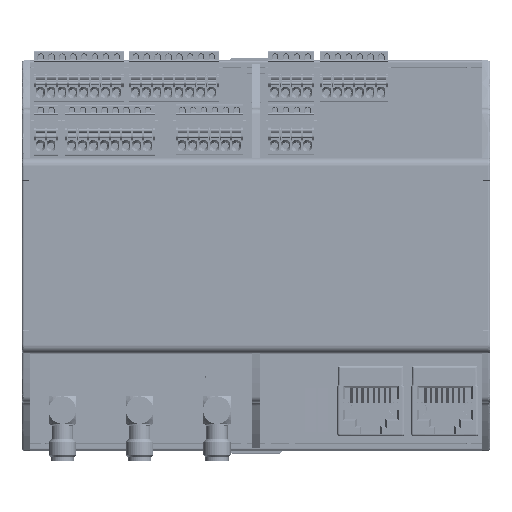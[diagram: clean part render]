
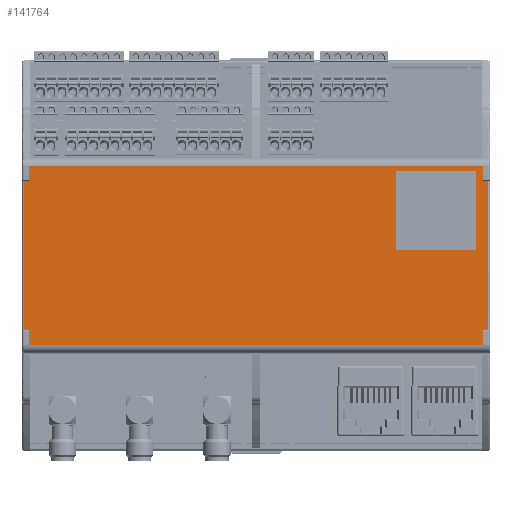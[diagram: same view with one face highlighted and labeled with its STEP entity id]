
A CAD part, top view. The second image highlights one B-rep face of the part: STEP entity #141764.
In plain terms, the highlighted planar face has unit normal (0, 0, 1) as drawn and (0, 1, 0) by its records, which use the part's own axes.
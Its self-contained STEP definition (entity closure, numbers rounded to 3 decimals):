
#18638 = AXIS2_PLACEMENT_3D ( 'NONE', #20826, #20828, #20830 ) ;
#20776 = FACE_BOUND ( 'NONE', #196151, .T. ) ;
#20807 = FACE_OUTER_BOUND ( 'NONE', #196180, .T. ) ;
#20809 = PLANE ( 'NONE',  #18638 ) ;
#20826 = CARTESIAN_POINT ( 'NONE',  ( -16.96, 54.7, 18.2 ) ) ;
#20828 = DIRECTION ( 'NONE',  ( 0., -1., 0. ) ) ;
#20830 = DIRECTION ( 'NONE',  ( 0., 0., -1. ) ) ;
#67210 = CARTESIAN_POINT ( 'NONE',  ( 20.5, 54.7, 106.2 ) ) ;
#67221 = CARTESIAN_POINT ( 'NONE',  ( -17.2, 54.7, 1.8 ) ) ;
#67320 = CARTESIAN_POINT ( 'NONE',  ( -20.5, 54.7, 106.2 ) ) ;
#67371 = CARTESIAN_POINT ( 'NONE',  ( 17.2, 54.7, 107.3 ) ) ;
#67406 = CARTESIAN_POINT ( 'NONE',  ( 20.5, 54.7, 1.8 ) ) ;
#67449 = CARTESIAN_POINT ( 'NONE',  ( -17.2, 54.7, 106.2 ) ) ;
#67514 = CARTESIAN_POINT ( 'NONE',  ( -17.2, 54.7, 107.3 ) ) ;
#67544 = CARTESIAN_POINT ( 'NONE',  ( -17.2, 54.7, 0.7 ) ) ;
#69953 = CARTESIAN_POINT ( 'NONE',  ( 1.144, 54.7, 86.293 ) ) ;
#69973 = CARTESIAN_POINT ( 'NONE',  ( 17.2, 54.7, 0.7 ) ) ;
#69991 = CARTESIAN_POINT ( 'NONE',  ( 17.2, 54.7, 106.2 ) ) ;
#70010 = CARTESIAN_POINT ( 'NONE',  ( 19.432, 54.7, 104.581 ) ) ;
#102897 = VERTEX_POINT ( 'NONE', #174456 ) ;
#103744 = VERTEX_POINT ( 'NONE', #174497 ) ;
#129748 = VERTEX_POINT ( 'NONE', #67210 ) ;
#129761 = VERTEX_POINT ( 'NONE', #67221 ) ;
#129858 = VERTEX_POINT ( 'NONE', #67320 ) ;
#129911 = VERTEX_POINT ( 'NONE', #67371 ) ;
#129942 = VERTEX_POINT ( 'NONE', #67406 ) ;
#129973 = VERTEX_POINT ( 'NONE', #67449 ) ;
#130013 = VERTEX_POINT ( 'NONE', #67514 ) ;
#130031 = VERTEX_POINT ( 'NONE', #67544 ) ;
#130097 = VERTEX_POINT ( 'NONE', #69953 ) ;
#130107 = VERTEX_POINT ( 'NONE', #69973 ) ;
#130115 = VERTEX_POINT ( 'NONE', #69991 ) ;
#130124 = VERTEX_POINT ( 'NONE', #70010 ) ;
#141764 = ADVANCED_FACE ( 'NONE', ( #20776, #20807 ), #20809, .F. ) ;
#155324 = VECTOR ( 'NONE', #159325, 1000. ) ;
#155450 = VECTOR ( 'NONE', #159314, 1000. ) ;
#155453 = VECTOR ( 'NONE', #159374, 1000. ) ;
#155455 = VECTOR ( 'NONE', #159340, 1000. ) ;
#155459 = VECTOR ( 'NONE', #159349, 1000. ) ;
#155461 = VECTOR ( 'NONE', #159364, 1000. ) ;
#155463 = VECTOR ( 'NONE', #159393, 1000. ) ;
#155465 = VECTOR ( 'NONE', #159406, 1000. ) ;
#155469 = VECTOR ( 'NONE', #159417, 1000. ) ;
#155472 = VECTOR ( 'NONE', #159472, 1000. ) ;
#155476 = VECTOR ( 'NONE', #159428, 1000. ) ;
#155479 = VECTOR ( 'NONE', #159440, 1000. ) ;
#155481 = VECTOR ( 'NONE', #159456, 1000. ) ;
#155484 = VECTOR ( 'NONE', #159485, 1000. ) ;
#155491 = VECTOR ( 'NONE', #159499, 1000. ) ;
#155495 = VECTOR ( 'NONE', #159509, 1000. ) ;
#158218 = LINE ( 'NONE', #159318, #155324 ) ;
#158714 = LINE ( 'NONE', #159367, #155453 ) ;
#159300 = LINE ( 'NONE', #159309, #155450 ) ;
#159305 = LINE ( 'NONE', #159379, #155463 ) ;
#159309 = CARTESIAN_POINT ( 'NONE',  ( 19.432, 54.7, 86.293 ) ) ;
#159314 = DIRECTION ( 'NONE',  ( 0., 0., 1. ) ) ;
#159318 = CARTESIAN_POINT ( 'NONE',  ( 1.144, 54.7, 104.581 ) ) ;
#159325 = DIRECTION ( 'NONE',  ( 1., 0., 0. ) ) ;
#159329 = LINE ( 'NONE', #159337, #155455 ) ;
#159337 = CARTESIAN_POINT ( 'NONE',  ( 1.144, 54.7, 104.581 ) ) ;
#159340 = DIRECTION ( 'NONE',  ( 0., 0., -1. ) ) ;
#159343 = LINE ( 'NONE', #159348, #155459 ) ;
#159348 = CARTESIAN_POINT ( 'NONE',  ( 1.144, 54.7, 86.293 ) ) ;
#159349 = DIRECTION ( 'NONE',  ( 1., 0., 0. ) ) ;
#159353 = LINE ( 'NONE', #159360, #155461 ) ;
#159357 = LINE ( 'NONE', #159396, #155465 ) ;
#159360 = CARTESIAN_POINT ( 'NONE',  ( -16.96, 54.7, 1.8 ) ) ;
#159364 = DIRECTION ( 'NONE',  ( 1., 0., 0. ) ) ;
#159367 = CARTESIAN_POINT ( 'NONE',  ( 17.2, 54.7, 0.2 ) ) ;
#159370 = LINE ( 'NONE', #159409, #155469 ) ;
#159374 = DIRECTION ( 'NONE',  ( 0., 0., -1. ) ) ;
#159379 = CARTESIAN_POINT ( 'NONE',  ( -16.96, 54.7, 0.7 ) ) ;
#159388 = LINE ( 'NONE', #159461, #155472 ) ;
#159393 = DIRECTION ( 'NONE',  ( 1., 0., 0. ) ) ;
#159396 = CARTESIAN_POINT ( 'NONE',  ( -17.2, 54.7, 0.2 ) ) ;
#159402 = LINE ( 'NONE', #159476, #155484 ) ;
#159406 = DIRECTION ( 'NONE',  ( 0., 0., -1. ) ) ;
#159409 = CARTESIAN_POINT ( 'NONE',  ( -16.96, 54.7, 1.8 ) ) ;
#159417 = DIRECTION ( 'NONE',  ( 1., 0., 0. ) ) ;
#159421 = LINE ( 'NONE', #159425, #155476 ) ;
#159425 = CARTESIAN_POINT ( 'NONE',  ( -20.5, 54.7, 18.2 ) ) ;
#159428 = DIRECTION ( 'NONE',  ( 0., 0., -1. ) ) ;
#159431 = LINE ( 'NONE', #159436, #155479 ) ;
#159436 = CARTESIAN_POINT ( 'NONE',  ( -16.96, 54.7, 106.2 ) ) ;
#159440 = DIRECTION ( 'NONE',  ( -1., 0., 0. ) ) ;
#159445 = LINE ( 'NONE', #159452, #155481 ) ;
#159452 = CARTESIAN_POINT ( 'NONE',  ( -17.2, 54.7, 72.2 ) ) ;
#159456 = DIRECTION ( 'NONE',  ( 0., 0., -1. ) ) ;
#159461 = CARTESIAN_POINT ( 'NONE',  ( -16.96, 54.7, 107.3 ) ) ;
#159472 = DIRECTION ( 'NONE',  ( -1., 0., 0. ) ) ;
#159476 = CARTESIAN_POINT ( 'NONE',  ( 17.2, 54.7, 107.8 ) ) ;
#159485 = DIRECTION ( 'NONE',  ( 0., 0., -1. ) ) ;
#159488 = LINE ( 'NONE', #159495, #155491 ) ;
#159495 = CARTESIAN_POINT ( 'NONE',  ( -16.96, 54.7, 106.2 ) ) ;
#159499 = DIRECTION ( 'NONE',  ( -1., 0., 0. ) ) ;
#159503 = LINE ( 'NONE', #159507, #155495 ) ;
#159507 = CARTESIAN_POINT ( 'NONE',  ( 20.5, 54.7, 18.2 ) ) ;
#159509 = DIRECTION ( 'NONE',  ( 0., 0., 1. ) ) ;
#166390 = CARTESIAN_POINT ( 'NONE',  ( 1.144, 54.7, 104.581 ) ) ;
#166951 = CARTESIAN_POINT ( 'NONE',  ( 17.2, 54.7, 1.8 ) ) ;
#174456 = CARTESIAN_POINT ( 'NONE',  ( 19.432, 54.7, 86.293 ) ) ;
#174497 = CARTESIAN_POINT ( 'NONE',  ( -20.5, 54.7, 1.8 ) ) ;
#189113 = EDGE_CURVE ( 'NONE', #102897, #130124, #159300, .T. ) ;
#189115 = EDGE_CURVE ( 'NONE', #235687, #130124, #158218, .T. ) ;
#189119 = EDGE_CURVE ( 'NONE', #235687, #130097, #159329, .T. ) ;
#189121 = EDGE_CURVE ( 'NONE', #130097, #102897, #159343, .T. ) ;
#189122 = EDGE_CURVE ( 'NONE', #235727, #129942, #159353, .T. ) ;
#189125 = EDGE_CURVE ( 'NONE', #235727, #130107, #158714, .T. ) ;
#189127 = EDGE_CURVE ( 'NONE', #130031, #130107, #159305, .T. ) ;
#189129 = EDGE_CURVE ( 'NONE', #129761, #130031, #159357, .T. ) ;
#189133 = EDGE_CURVE ( 'NONE', #103744, #129761, #159370, .T. ) ;
#189136 = EDGE_CURVE ( 'NONE', #129858, #103744, #159421, .T. ) ;
#189138 = EDGE_CURVE ( 'NONE', #129973, #129858, #159431, .T. ) ;
#189140 = EDGE_CURVE ( 'NONE', #130013, #129973, #159445, .T. ) ;
#189143 = EDGE_CURVE ( 'NONE', #129911, #130013, #159388, .T. ) ;
#189146 = EDGE_CURVE ( 'NONE', #129911, #130115, #159402, .T. ) ;
#189150 = EDGE_CURVE ( 'NONE', #129748, #130115, #159488, .T. ) ;
#189153 = EDGE_CURVE ( 'NONE', #129942, #129748, #159503, .T. ) ;
#196151 = EDGE_LOOP ( 'NONE', ( #251746, #251749, #251752, #251755 ) ) ;
#196180 = EDGE_LOOP ( 'NONE', ( #251758, #251761, #251764, #251766, #251769, #251772, #251774, #251777, #251780, #251783, #251786, #251789 ) ) ;
#235687 = VERTEX_POINT ( 'NONE', #166390 ) ;
#235727 = VERTEX_POINT ( 'NONE', #166951 ) ;
#251746 = ORIENTED_EDGE ( 'NONE', *, *, #189113, .T. ) ;
#251749 = ORIENTED_EDGE ( 'NONE', *, *, #189115, .F. ) ;
#251752 = ORIENTED_EDGE ( 'NONE', *, *, #189119, .T. ) ;
#251755 = ORIENTED_EDGE ( 'NONE', *, *, #189121, .T. ) ;
#251758 = ORIENTED_EDGE ( 'NONE', *, *, #189122, .F. ) ;
#251761 = ORIENTED_EDGE ( 'NONE', *, *, #189125, .T. ) ;
#251764 = ORIENTED_EDGE ( 'NONE', *, *, #189127, .F. ) ;
#251766 = ORIENTED_EDGE ( 'NONE', *, *, #189129, .F. ) ;
#251769 = ORIENTED_EDGE ( 'NONE', *, *, #189133, .F. ) ;
#251772 = ORIENTED_EDGE ( 'NONE', *, *, #189136, .F. ) ;
#251774 = ORIENTED_EDGE ( 'NONE', *, *, #189138, .F. ) ;
#251777 = ORIENTED_EDGE ( 'NONE', *, *, #189140, .F. ) ;
#251780 = ORIENTED_EDGE ( 'NONE', *, *, #189143, .F. ) ;
#251783 = ORIENTED_EDGE ( 'NONE', *, *, #189146, .T. ) ;
#251786 = ORIENTED_EDGE ( 'NONE', *, *, #189150, .F. ) ;
#251789 = ORIENTED_EDGE ( 'NONE', *, *, #189153, .F. ) ;
